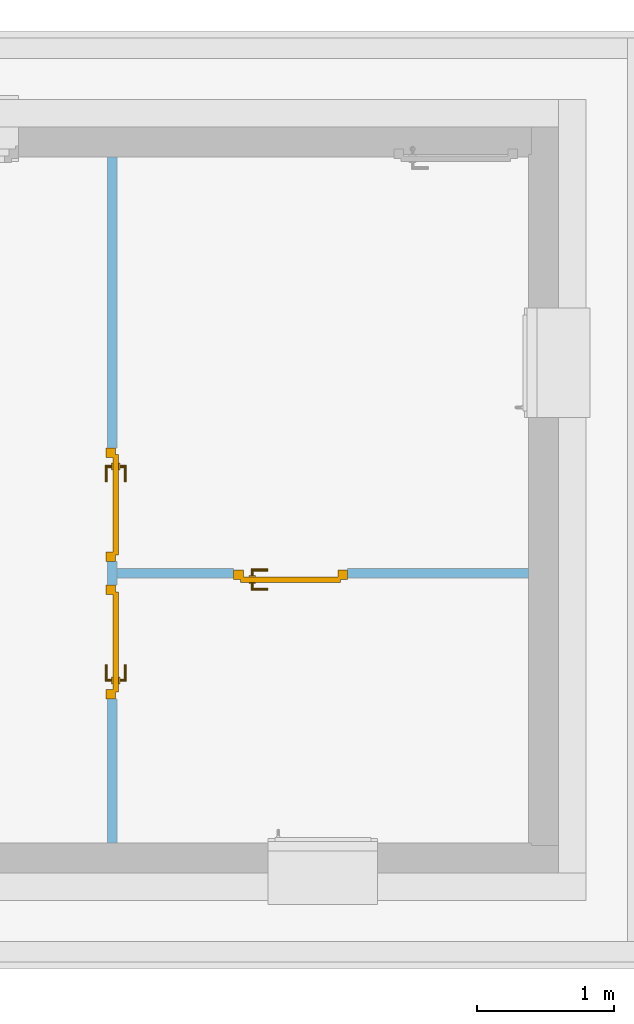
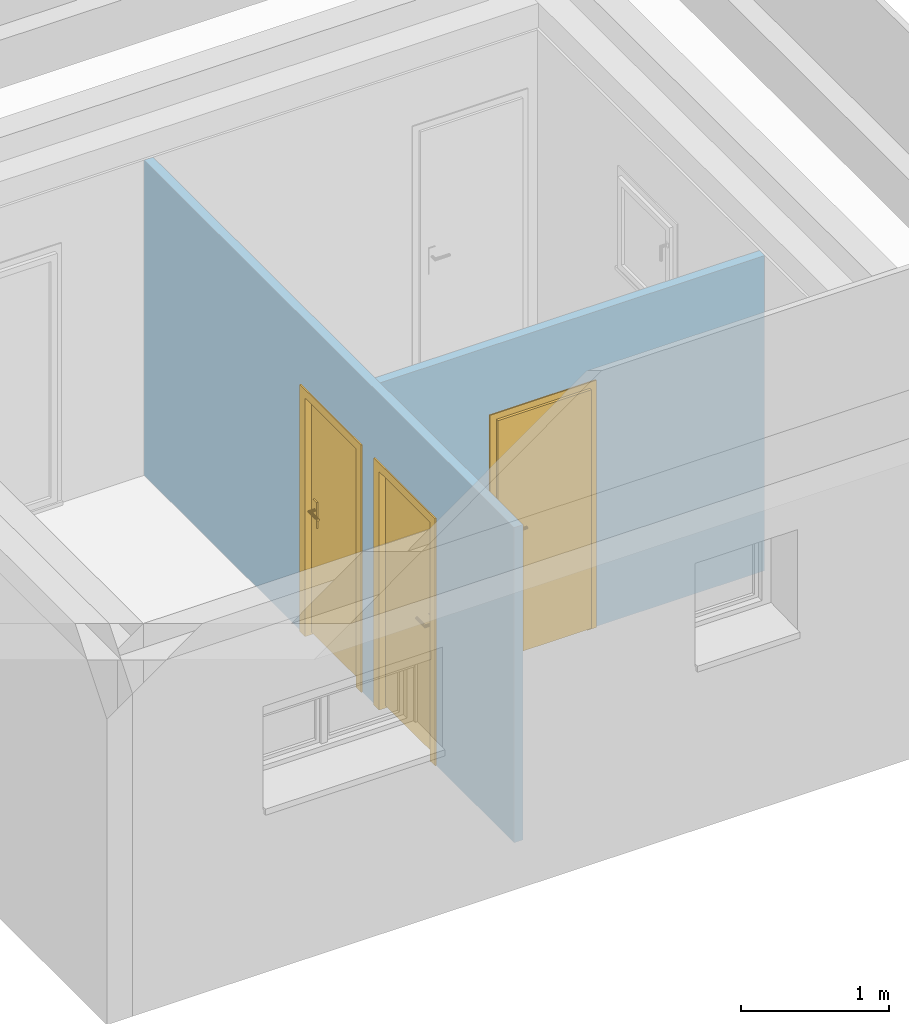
# One storey, part 14 of 16: 3 doors, 3 openings, plus 2 elements that do not belong to this part.
"""IFC4 building model written with IfcOpenShell, lengths in metres."""

from ifc_helpers import new_model, entity, si_unit, converted_unit, frame, frame_2d, origin, origin_with_axes, place, context, subcontext, project, spatial, polyline, rectangle, outline, extrude, faceted_brep, source, transform, mapped, material, layer, layer_set, layer_usage, type_object, element, fill, save


model = new_model("IFC4")

# Units and contexts
model_context = context("Model", 3, precision=1e-05, world=origin())
body_context = subcontext(model_context, "Body", "Model", "MODEL_VIEW")
ifc_project = project(units=[si_unit("LENGTHUNIT", "METRE"), si_unit("AREAUNIT", "SQUARE_METRE"), si_unit("VOLUMEUNIT", "CUBIC_METRE"), si_unit("MASSUNIT", "GRAM", prefix="KILO"), converted_unit("PLANEANGLEUNIT", "DEGREE", entity("IfcPlaneAngleMeasure", 0.0174532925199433), si_unit("PLANEANGLEUNIT", "RADIAN"), dimensions=[0, 0, 0, 0, 0, 0, 0])], contexts=[model_context])

# Building, storey
building_placement = place(None, origin())
building = spatial("IfcBuilding", under=ifc_project, at=building_placement, Name="Projet de Construction", CompositionType="ELEMENT")
storey_placement = place(building_placement, frame((0.0, 0.0, -0.05)))
storey = spatial("IfcBuildingStorey", under=building, at=storey_placement, Name="RDC", CompositionType="ELEMENT", Elevation=-0.05)

# Wall, openings, doors
ifc_material_1 = material()
ifc_layer_1 = layer(ifc_material_1, 0.07)
ifc_layer_set_1 = layer_set([ifc_layer_1])
ifc_layer_usage_1 = layer_usage(ifc_layer_set_1, "AXIS2", "POSITIVE", 0.0)
wall_1_placement = place(storey_placement, frame((6.3740625, 4.21979166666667, 0.05), z_axis=(0.0, 0.0, 1.0), x_axis=(-1.81898940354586e-16, -1.0, 0.0)))
wall_1 = element("IfcWall", 1, at=wall_1_placement, inside=storey, material=ifc_layer_usage_1, context=body_context, shape_type="SweptSolid", body=[
    extrude(rectangle(XDim=5.0, YDim=0.07, at=frame_2d((2.5, 0.035), x_axis=(1.0, 0.0))), origin_with_axes(), (0.0, 0.0, 1.0), 2.6),
])
opening_1_placement = place(wall_1_placement, frame((2.12, -5.23868948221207e-16, 0.0), z_axis=(0.0, 1.0, 0.0), x_axis=(0.0, 0.0, 1.0)))
opening_1 = element("IfcOpeningStandardCase", 2, at=opening_1_placement, cuts=wall_1, Name="Baie de porte", PredefinedType="OPENING", context=body_context, shape_type="SweptSolid", body=[
    extrude(outline(polyline([(0.0, 0.83), (2.04, 0.83), (2.04, 0.0), (0.0, 0.0), (0.0, 0.83)])), origin_with_axes(), (0.0, 0.0, 1.0), 0.0700000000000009),
])
opening_2_placement = place(wall_1_placement, frame((3.12, -3.41970007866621e-16, 0.0), z_axis=(0.0, 1.0, 0.0), x_axis=(0.0, 0.0, 1.0)))
opening_2 = element("IfcOpeningStandardCase", 3, at=opening_2_placement, cuts=wall_1, Name="Baie de porte", PredefinedType="OPENING", context=body_context, shape_type="SweptSolid", body=[
    extrude(outline(polyline([(0.0, 0.83), (2.04, 0.83), (2.04, 0.0), (0.0, 0.0), (0.0, 0.83)])), origin_with_axes(), (0.0, 0.0, 1.0), 0.07),
])
ifc_material_2 = material()
door_type_1 = type_object("IfcDoorType", Name="1 vantail sol fini, en bois", OperationType="SINGLE_SWING_RIGHT", ParameterTakesPrecedence=False, PredefinedType="DOOR")
shared_shape_1 = source(origin_with_axes(), body_context, "Body", "Brep", [
    faceted_brep([(0.0, 0.0699999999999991, 2.04), (0.0, 0.0699999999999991, -4.28626379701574e-18), (0.07, 0.0699999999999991, -4.28626379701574e-18), (0.07, 0.0699999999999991, 2.04), (0.0, -9.09494701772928e-16, 4.28626379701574e-18), (0.0, -9.09494701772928e-16, 2.04), (0.07, -9.09494701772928e-16, 2.04), (0.07, -9.09494701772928e-16, 4.28626379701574e-18)], [[[0, 1, 2, 3]], [[4, 5, 6, 7]], [[1, 0, 5, 4]], [[2, 1, 4, 7]], [[3, 2, 7, 6]], [[0, 3, 6, 5]]], orient=[[False], [False], [False], [False], [False], [False]]),
    faceted_brep([(0.76, 0.0699999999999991, 2.04), (0.76, 0.0699999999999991, -4.28626379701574e-18), (0.83, 0.0699999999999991, -4.28626379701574e-18), (0.83, 0.0699999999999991, 2.04), (0.76, -9.09494701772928e-16, 4.28626379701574e-18), (0.76, -9.09494701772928e-16, 2.04), (0.83, -9.09494701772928e-16, 2.04), (0.83, -9.09494701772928e-16, 4.28626379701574e-18)], [[[0, 1, 2, 3]], [[4, 5, 6, 7]], [[1, 0, 5, 4]], [[2, 1, 4, 7]], [[3, 2, 7, 6]], [[0, 3, 6, 5]]], orient=[[False], [False], [False], [False], [False], [False]]),
    faceted_brep([(0.07, 0.0699999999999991, 2.04), (0.07, 0.0699999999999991, 1.97), (0.76, 0.0699999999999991, 1.97), (0.76, 0.0699999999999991, 2.04), (0.07, -9.09494701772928e-16, 1.97), (0.07, -9.09494701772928e-16, 2.04), (0.76, -9.09494701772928e-16, 2.04), (0.76, -9.09494701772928e-16, 1.97)], [[[0, 1, 2, 3]], [[4, 5, 6, 7]], [[1, 0, 5, 4]], [[2, 1, 4, 7]], [[3, 2, 7, 6]], [[0, 3, 6, 5]]], orient=[[False], [False], [False], [False], [False], [False]]),
    faceted_brep([(0.05, 0.0899999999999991, 1.99), (0.05, 0.0899999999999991, 0.021), (0.78, 0.0899999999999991, 0.021), (0.78, 0.0899999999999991, 1.99), (0.05, 0.0499999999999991, 0.021), (0.05, 0.0499999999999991, 1.99), (0.78, 0.0499999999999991, 1.99), (0.78, 0.0499999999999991, 0.021)], [[[0, 1, 2, 3]], [[4, 5, 6, 7]], [[1, 0, 5, 4]], [[2, 1, 4, 7]], [[3, 2, 7, 6]], [[0, 3, 6, 5]]], orient=[[False], [False], [False], [False], [False], [False]]),
    faceted_brep([(0.11, 0.0499999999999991, 1.146), (0.11, 0.0499999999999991, 0.931), (0.16, 0.0499999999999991, 0.931), (0.16, 0.0499999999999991, 1.146), (0.11, 0.0399999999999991, 0.931), (0.11, 0.0399999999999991, 1.146), (0.16, 0.0399999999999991, 1.146), (0.16, 0.0399999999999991, 0.931)], [[[0, 1, 2, 3]], [[4, 5, 6, 7]], [[1, 0, 5, 4]], [[2, 1, 4, 7]], [[3, 2, 7, 6]], [[0, 3, 6, 5]]], orient=[[False], [False], [False], [False], [False], [False]]),
    faceted_brep([(0.135, 0.0399999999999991, 1.081), (0.13, 0.0399999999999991, 1.07966025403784), (0.126339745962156, 0.0399999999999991, 1.076), (0.125, 0.0399999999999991, 1.071), (0.126339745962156, 0.0399999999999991, 1.066), (0.13, 0.0399999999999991, 1.06233974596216), (0.135, 0.0399999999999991, 1.061), (0.14, 0.0399999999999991, 1.06233974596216), (0.143660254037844, 0.0399999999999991, 1.066), (0.145, 0.0399999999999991, 1.071), (0.143660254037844, 0.0399999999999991, 1.076), (0.14, 0.0399999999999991, 1.07966025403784), (0.135, -9.09494701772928e-16, 1.081), (0.13, -0.00500000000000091, 1.07966025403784), (0.126339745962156, -0.00866025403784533, 1.076), (0.125, -0.0100000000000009, 1.071), (0.126339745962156, -0.00866025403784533, 1.066), (0.13, -0.00500000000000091, 1.06233974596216), (0.135, -9.09494701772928e-16, 1.061), (0.14, 0.00499999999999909, 1.06233974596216), (0.143660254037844, 0.00866025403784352, 1.066), (0.145, 0.00999999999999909, 1.071), (0.143660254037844, 0.00866025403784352, 1.076), (0.14, 0.00499999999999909, 1.07966025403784), (0.25, -9.09494701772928e-16, 1.081), (0.25, 0.00499999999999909, 1.07966025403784), (0.25, 0.00866025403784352, 1.076), (0.25, 0.00999999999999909, 1.071), (0.25, 0.00866025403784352, 1.066), (0.25, 0.00499999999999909, 1.06233974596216), (0.25, -9.09494701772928e-16, 1.061), (0.25, -0.00500000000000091, 1.06233974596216), (0.25, -0.00866025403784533, 1.066), (0.25, -0.0100000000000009, 1.071), (0.25, -0.00866025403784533, 1.076), (0.25, -0.00500000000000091, 1.07966025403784)], [[[0, 1, 2, 3, 4, 5, 6, 7, 8, 9, 10, 11]], [[0, 12, 13, 1]], [[1, 13, 14, 2]], [[2, 14, 15, 3]], [[3, 15, 16, 4]], [[4, 16, 17, 5]], [[5, 17, 18, 6]], [[6, 18, 19, 7]], [[7, 19, 20, 8]], [[8, 20, 21, 9]], [[9, 21, 22, 10]], [[10, 22, 23, 11]], [[11, 23, 12, 0]], [[24, 25, 26, 27, 28, 29, 30, 31, 32, 33, 34, 35]], [[12, 24, 35, 13]], [[13, 35, 34, 14]], [[14, 34, 33, 15]], [[15, 33, 32, 16]], [[16, 32, 31, 17]], [[17, 31, 30, 18]], [[18, 30, 29, 19]], [[19, 29, 28, 20]], [[20, 28, 27, 21]], [[21, 27, 26, 22]], [[22, 26, 25, 23]], [[23, 25, 24, 12]]], orient=[[False], [False], [False], [False], [False], [False], [False], [False], [False], [False], [False], [False], [False], [False], [False], [False], [False], [False], [False], [False], [False], [False], [False], [False], [False], [False]]),
    faceted_brep([(0.11, 0.0899999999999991, 1.146), (0.16, 0.0899999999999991, 1.146), (0.16, 0.0899999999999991, 0.931), (0.11, 0.0899999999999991, 0.931), (0.11, 0.0999999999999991, 0.931), (0.16, 0.0999999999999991, 0.931), (0.16, 0.0999999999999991, 1.146), (0.11, 0.0999999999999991, 1.146)], [[[0, 1, 2, 3]], [[4, 5, 6, 7]], [[3, 4, 7, 0]], [[2, 5, 4, 3]], [[1, 6, 5, 2]], [[0, 7, 6, 1]]], orient=[[False], [False], [False], [False], [False], [False]]),
    faceted_brep([(0.135, 0.0999999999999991, 1.081), (0.14, 0.0999999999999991, 1.07966025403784), (0.143660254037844, 0.0999999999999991, 1.076), (0.145, 0.0999999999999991, 1.071), (0.143660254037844, 0.0999999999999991, 1.066), (0.14, 0.0999999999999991, 1.06233974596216), (0.135, 0.0999999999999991, 1.061), (0.13, 0.0999999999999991, 1.06233974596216), (0.126339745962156, 0.0999999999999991, 1.066), (0.125, 0.0999999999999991, 1.071), (0.126339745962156, 0.0999999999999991, 1.076), (0.13, 0.0999999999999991, 1.07966025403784), (0.13, 0.144999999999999, 1.07966025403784), (0.135, 0.139999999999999, 1.081), (0.126339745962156, 0.148660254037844, 1.076), (0.125, 0.149999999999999, 1.071), (0.126339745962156, 0.148660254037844, 1.066), (0.13, 0.144999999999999, 1.06233974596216), (0.135, 0.139999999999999, 1.061), (0.14, 0.134999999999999, 1.06233974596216), (0.143660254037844, 0.131339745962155, 1.066), (0.145, 0.129999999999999, 1.071), (0.143660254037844, 0.131339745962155, 1.076), (0.14, 0.134999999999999, 1.07966025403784), (0.25, 0.139999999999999, 1.081), (0.25, 0.144999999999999, 1.07966025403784), (0.25, 0.148660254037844, 1.076), (0.25, 0.149999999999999, 1.071), (0.25, 0.148660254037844, 1.066), (0.25, 0.144999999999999, 1.06233974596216), (0.25, 0.139999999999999, 1.061), (0.25, 0.134999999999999, 1.06233974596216), (0.25, 0.131339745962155, 1.066), (0.25, 0.129999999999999, 1.071), (0.25, 0.131339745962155, 1.076), (0.25, 0.134999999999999, 1.07966025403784)], [[[0, 1, 2, 3, 4, 5, 6, 7, 8, 9, 10, 11]], [[0, 11, 12, 13]], [[11, 10, 14, 12]], [[10, 9, 15, 14]], [[9, 8, 16, 15]], [[8, 7, 17, 16]], [[7, 6, 18, 17]], [[6, 5, 19, 18]], [[5, 4, 20, 19]], [[4, 3, 21, 20]], [[3, 2, 22, 21]], [[2, 1, 23, 22]], [[1, 0, 13, 23]], [[24, 25, 26, 27, 28, 29, 30, 31, 32, 33, 34, 35]], [[13, 12, 25, 24]], [[12, 14, 26, 25]], [[14, 15, 27, 26]], [[15, 16, 28, 27]], [[16, 17, 29, 28]], [[17, 18, 30, 29]], [[18, 19, 31, 30]], [[19, 20, 32, 31]], [[20, 21, 33, 32]], [[21, 22, 34, 33]], [[22, 23, 35, 34]], [[23, 13, 24, 35]]], orient=[[False], [False], [False], [False], [False], [False], [False], [False], [False], [False], [False], [False], [False], [False], [False], [False], [False], [False], [False], [False], [False], [False], [False], [False], [False], [False]]),
])
door_1_placement = place(opening_1_placement, frame((0.0, 0.0, -0.00999999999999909), z_axis=(1.0, 0.0, 0.0), x_axis=(0.0, 1.0, 1.81898940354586e-16)))
door_1 = element("IfcDoor", 4, at=door_1_placement, inside=storey, type_object=door_type_1, material=ifc_material_2, Name="1 vantail sol fini, en bois", OverallHeight=2.04, OverallWidth=0.83, context=body_context, shape_type="MappedRepresentation", body=[
    mapped(shared_shape_1, transform((0.0, 0.0, 0.0), x_axis=(1.0, 0.0, 0.0), y_axis=(0.0, 1.0, 0.0), z_axis=(0.0, 0.0, 1.0), scale=1.0)),
])
fill(opening_1, door_1)
ifc_material_3 = material()
door_type_2 = type_object("IfcDoorType", Name="1 vantail sol fini, en bois", OperationType="SINGLE_SWING_RIGHT", ParameterTakesPrecedence=False, PredefinedType="DOOR")
shared_shape_2 = source(origin_with_axes(), body_context, "Body", "Brep", [
    faceted_brep([(0.83, 0.07, 2.04), (0.76, 0.07, 2.04), (0.76, 0.07, -4.28626379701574e-18), (0.83, 0.07, -4.28626379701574e-18), (0.83, 0.0, 4.28626379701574e-18), (0.76, 0.0, 4.28626379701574e-18), (0.76, 0.0, 2.04), (0.83, 0.0, 2.04)], [[[0, 1, 2, 3]], [[4, 5, 6, 7]], [[3, 4, 7, 0]], [[2, 5, 4, 3]], [[1, 6, 5, 2]], [[0, 7, 6, 1]]], orient=[[False], [False], [False], [False], [False], [False]]),
    faceted_brep([(0.07, 0.07, 2.04), (0.0, 0.07, 2.04), (0.0, 0.07, -4.28626379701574e-18), (0.07, 0.07, -4.28626379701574e-18), (0.07, 0.0, 4.28626379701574e-18), (0.0, 0.0, 4.28626379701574e-18), (0.0, 0.0, 2.04), (0.07, 0.0, 2.04)], [[[0, 1, 2, 3]], [[4, 5, 6, 7]], [[3, 4, 7, 0]], [[2, 5, 4, 3]], [[1, 6, 5, 2]], [[0, 7, 6, 1]]], orient=[[False], [False], [False], [False], [False], [False]]),
    faceted_brep([(0.76, 0.07, 2.04), (0.07, 0.07, 2.04), (0.07, 0.07, 1.97), (0.76, 0.07, 1.97), (0.76, 0.0, 1.97), (0.07, 0.0, 1.97), (0.07, 0.0, 2.04), (0.76, 0.0, 2.04)], [[[0, 1, 2, 3]], [[4, 5, 6, 7]], [[3, 4, 7, 0]], [[2, 5, 4, 3]], [[1, 6, 5, 2]], [[0, 7, 6, 1]]], orient=[[False], [False], [False], [False], [False], [False]]),
    faceted_brep([(0.78, 0.09, 1.99), (0.05, 0.09, 1.99), (0.05, 0.09, 0.021), (0.78, 0.09, 0.021), (0.78, 0.05, 0.021), (0.05, 0.05, 0.021), (0.05, 0.05, 1.99), (0.78, 0.05, 1.99)], [[[0, 1, 2, 3]], [[4, 5, 6, 7]], [[3, 4, 7, 0]], [[2, 5, 4, 3]], [[1, 6, 5, 2]], [[0, 7, 6, 1]]], orient=[[False], [False], [False], [False], [False], [False]]),
    faceted_brep([(0.72, 0.05, 1.146), (0.67, 0.05, 1.146), (0.67, 0.05, 0.931), (0.72, 0.05, 0.931), (0.72, 0.04, 0.931), (0.67, 0.04, 0.931), (0.67, 0.04, 1.146), (0.72, 0.04, 1.146)], [[[0, 1, 2, 3]], [[4, 5, 6, 7]], [[3, 4, 7, 0]], [[2, 5, 4, 3]], [[1, 6, 5, 2]], [[0, 7, 6, 1]]], orient=[[False], [False], [False], [False], [False], [False]]),
    faceted_brep([(0.695, 0.04, 1.081), (0.69, 0.04, 1.07966025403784), (0.686339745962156, 0.04, 1.076), (0.685, 0.04, 1.071), (0.686339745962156, 0.04, 1.066), (0.69, 0.04, 1.06233974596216), (0.695, 0.04, 1.061), (0.7, 0.04, 1.06233974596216), (0.703660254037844, 0.04, 1.066), (0.705, 0.04, 1.071), (0.703660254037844, 0.04, 1.076), (0.7, 0.04, 1.07966025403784), (0.7, -0.005, 1.07966025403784), (0.695, 0.0, 1.081), (0.703660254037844, -0.00866025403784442, 1.076), (0.705, -0.01, 1.071), (0.703660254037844, -0.00866025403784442, 1.066), (0.7, -0.005, 1.06233974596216), (0.695, 0.0, 1.061), (0.69, 0.005, 1.06233974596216), (0.686339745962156, 0.00866025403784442, 1.066), (0.685, 0.01, 1.071), (0.686339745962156, 0.00866025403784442, 1.076), (0.69, 0.005, 1.07966025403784), (0.58, 0.0, 1.081), (0.58, -0.005, 1.07966025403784), (0.58, -0.00866025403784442, 1.076), (0.58, -0.01, 1.071), (0.58, -0.00866025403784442, 1.066), (0.58, -0.005, 1.06233974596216), (0.58, 0.0, 1.061), (0.58, 0.005, 1.06233974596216), (0.58, 0.00866025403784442, 1.066), (0.58, 0.01, 1.071), (0.58, 0.00866025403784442, 1.076), (0.58, 0.005, 1.07966025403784)], [[[0, 1, 2, 3, 4, 5, 6, 7, 8, 9, 10, 11]], [[0, 11, 12, 13]], [[11, 10, 14, 12]], [[10, 9, 15, 14]], [[9, 8, 16, 15]], [[8, 7, 17, 16]], [[7, 6, 18, 17]], [[6, 5, 19, 18]], [[5, 4, 20, 19]], [[4, 3, 21, 20]], [[3, 2, 22, 21]], [[2, 1, 23, 22]], [[1, 0, 13, 23]], [[24, 25, 26, 27, 28, 29, 30, 31, 32, 33, 34, 35]], [[13, 12, 25, 24]], [[12, 14, 26, 25]], [[14, 15, 27, 26]], [[15, 16, 28, 27]], [[16, 17, 29, 28]], [[17, 18, 30, 29]], [[18, 19, 31, 30]], [[19, 20, 32, 31]], [[20, 21, 33, 32]], [[21, 22, 34, 33]], [[22, 23, 35, 34]], [[23, 13, 24, 35]]], orient=[[False], [False], [False], [False], [False], [False], [False], [False], [False], [False], [False], [False], [False], [False], [False], [False], [False], [False], [False], [False], [False], [False], [False], [False], [False], [False]]),
    faceted_brep([(0.72, 0.09, 1.146), (0.72, 0.09, 0.931), (0.67, 0.09, 0.931), (0.67, 0.09, 1.146), (0.72, 0.1, 0.931), (0.72, 0.1, 1.146), (0.67, 0.1, 1.146), (0.67, 0.1, 0.931)], [[[0, 1, 2, 3]], [[4, 5, 6, 7]], [[1, 0, 5, 4]], [[2, 1, 4, 7]], [[3, 2, 7, 6]], [[0, 3, 6, 5]]], orient=[[False], [False], [False], [False], [False], [False]]),
    faceted_brep([(0.695, 0.1, 1.081), (0.7, 0.1, 1.07966025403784), (0.703660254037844, 0.1, 1.076), (0.705, 0.1, 1.071), (0.703660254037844, 0.1, 1.066), (0.7, 0.1, 1.06233974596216), (0.695, 0.1, 1.061), (0.69, 0.1, 1.06233974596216), (0.686339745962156, 0.1, 1.066), (0.685, 0.1, 1.071), (0.686339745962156, 0.1, 1.076), (0.69, 0.1, 1.07966025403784), (0.695, 0.14, 1.081), (0.7, 0.145, 1.07966025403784), (0.703660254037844, 0.148660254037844, 1.076), (0.705, 0.15, 1.071), (0.703660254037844, 0.148660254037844, 1.066), (0.7, 0.145, 1.06233974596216), (0.695, 0.14, 1.061), (0.69, 0.135, 1.06233974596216), (0.686339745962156, 0.131339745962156, 1.066), (0.685, 0.13, 1.071), (0.686339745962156, 0.131339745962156, 1.076), (0.69, 0.135, 1.07966025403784), (0.58, 0.14, 1.081), (0.58, 0.135, 1.07966025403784), (0.58, 0.131339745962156, 1.076), (0.58, 0.13, 1.071), (0.58, 0.131339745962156, 1.066), (0.58, 0.135, 1.06233974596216), (0.58, 0.14, 1.061), (0.58, 0.145, 1.06233974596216), (0.58, 0.148660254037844, 1.066), (0.58, 0.15, 1.071), (0.58, 0.148660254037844, 1.076), (0.58, 0.145, 1.07966025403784)], [[[0, 1, 2, 3, 4, 5, 6, 7, 8, 9, 10, 11]], [[0, 12, 13, 1]], [[1, 13, 14, 2]], [[2, 14, 15, 3]], [[3, 15, 16, 4]], [[4, 16, 17, 5]], [[5, 17, 18, 6]], [[6, 18, 19, 7]], [[7, 19, 20, 8]], [[8, 20, 21, 9]], [[9, 21, 22, 10]], [[10, 22, 23, 11]], [[11, 23, 12, 0]], [[24, 25, 26, 27, 28, 29, 30, 31, 32, 33, 34, 35]], [[12, 24, 35, 13]], [[13, 35, 34, 14]], [[14, 34, 33, 15]], [[15, 33, 32, 16]], [[16, 32, 31, 17]], [[17, 31, 30, 18]], [[18, 30, 29, 19]], [[19, 29, 28, 20]], [[20, 28, 27, 21]], [[21, 27, 26, 22]], [[22, 26, 25, 23]], [[23, 25, 24, 12]]], orient=[[False], [False], [False], [False], [False], [False], [False], [False], [False], [False], [False], [False], [False], [False], [False], [False], [False], [False], [False], [False], [False], [False], [False], [False], [False], [False]]),
])
door_2_placement = place(opening_2_placement, frame((0.0, 2.27373675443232e-16, -0.01), z_axis=(1.0, 0.0, 0.0), x_axis=(0.0, 1.0, 1.81898940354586e-16)))
door_2 = element("IfcDoor", 5, at=door_2_placement, inside=storey, type_object=door_type_2, material=ifc_material_3, Name="1 vantail sol fini, en bois", OverallHeight=2.04, OverallWidth=0.83, context=body_context, shape_type="MappedRepresentation", body=[
    mapped(shared_shape_2, transform((0.0, 0.0, 0.0), x_axis=(1.0, 0.0, 0.0), y_axis=(0.0, 1.0, 0.0), z_axis=(0.0, 0.0, 1.0), scale=1.0)),
])
fill(opening_2, door_2)

# Wall, opening, door
ifc_material_4 = material()
ifc_layer_2 = layer(ifc_material_4, 0.07)
ifc_layer_set_2 = layer_set([ifc_layer_2])
ifc_layer_usage_2 = layer_usage(ifc_layer_set_2, "AXIS2", "POSITIVE", 0.0)
wall_2_placement = place(storey_placement, frame((9.4440625, 1.21979166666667, 0.05), z_axis=(0.0, 0.0, 1.0), x_axis=(-1.0, 0.0, 0.0)))
wall_2 = element("IfcWall", 6, at=wall_2_placement, inside=storey, material=ifc_layer_usage_2, context=body_context, shape_type="SweptSolid", body=[
    extrude(rectangle(XDim=3.0, YDim=0.07, at=frame_2d((1.5, 0.035), x_axis=(1.0, 0.0))), origin_with_axes(), (0.0, 0.0, 1.0), 2.6),
])
opening_3_placement = place(wall_2_placement, frame((2.15, 0.07, 0.0), z_axis=(0.0, -1.0, 0.0), x_axis=(0.0, 0.0, 1.0)))
opening_3 = element("IfcOpeningStandardCase", 7, at=opening_3_placement, cuts=wall_2, Name="Baie de porte", PredefinedType="OPENING", context=body_context, shape_type="SweptSolid", body=[
    extrude(outline(polyline([(0.0, 0.83), (2.04, 0.83), (2.04, 0.0), (0.0, 0.0), (0.0, 0.83)])), origin_with_axes(), (0.0, 0.0, 1.0), 0.07),
])
ifc_material_5 = material()
door_type_3 = type_object("IfcDoorType", Name="1 vantail sol fini, en bois", OperationType="SINGLE_SWING_RIGHT", ParameterTakesPrecedence=False, PredefinedType="DOOR")
shared_shape_3 = source(origin_with_axes(), body_context, "Body", "Brep", [
    faceted_brep([(0.83, 0.0700000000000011, 2.04), (0.76, 0.0700000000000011, 2.04), (0.76, 0.0700000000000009, -4.28626379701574e-18), (0.83, 0.0700000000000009, -4.28626379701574e-18), (0.83, 9.09494701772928e-16, 4.28626379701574e-18), (0.76, 9.09494701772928e-16, 4.28626379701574e-18), (0.76, 1.13686837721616e-15, 2.04), (0.83, 1.13686837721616e-15, 2.04)], [[[0, 1, 2, 3]], [[4, 5, 6, 7]], [[3, 4, 7, 0]], [[2, 5, 4, 3]], [[1, 6, 5, 2]], [[0, 7, 6, 1]]], orient=[[False], [False], [False], [False], [False], [False]]),
    faceted_brep([(0.07, 0.0700000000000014, 2.04), (0.0, 0.0700000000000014, 2.04), (0.0, 0.0700000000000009, -4.28626379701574e-18), (0.07, 0.0700000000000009, -4.28626379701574e-18), (0.07, 9.09494701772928e-16, 4.28626379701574e-18), (0.0, 9.09494701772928e-16, 4.28626379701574e-18), (0.0, 1.36424205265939e-15, 2.04), (0.07, 1.36424205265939e-15, 2.04)], [[[0, 1, 2, 3]], [[4, 5, 6, 7]], [[3, 4, 7, 0]], [[2, 5, 4, 3]], [[1, 6, 5, 2]], [[0, 7, 6, 1]]], orient=[[False], [False], [False], [False], [False], [False]]),
    faceted_brep([(0.76, 0.0700000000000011, 2.04), (0.07, 0.0700000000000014, 2.04), (0.07, 0.0700000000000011, 1.97), (0.76, 0.0700000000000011, 1.97), (0.76, 1.13686837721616e-15, 1.97), (0.07, 1.13686837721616e-15, 1.97), (0.07, 1.36424205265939e-15, 2.04), (0.76, 1.13686837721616e-15, 2.04)], [[[0, 1, 2, 3]], [[4, 5, 6, 7]], [[3, 4, 7, 0]], [[2, 5, 4, 3]], [[1, 6, 5, 2]], [[0, 7, 6, 1]]], orient=[[False], [False], [False], [False], [False], [False]]),
    faceted_brep([(0.78, 0.0900000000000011, 1.99), (0.05, 0.0900000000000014, 1.99), (0.05, 0.0900000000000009, 0.021), (0.78, 0.0900000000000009, 0.021), (0.78, 0.0500000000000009, 0.021), (0.05, 0.0500000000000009, 0.021), (0.05, 0.0500000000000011, 1.99), (0.78, 0.0500000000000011, 1.99)], [[[0, 1, 2, 3]], [[4, 5, 6, 7]], [[3, 4, 7, 0]], [[2, 5, 4, 3]], [[1, 6, 5, 2]], [[0, 7, 6, 1]]], orient=[[False], [False], [False], [False], [False], [False]]),
    faceted_brep([(0.72, 0.0500000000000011, 1.146), (0.67, 0.0500000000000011, 1.146), (0.67, 0.0500000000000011, 0.931), (0.72, 0.0500000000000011, 0.931), (0.72, 0.0400000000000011, 0.931), (0.67, 0.0400000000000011, 0.931), (0.67, 0.0400000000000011, 1.146), (0.72, 0.0400000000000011, 1.146)], [[[0, 1, 2, 3]], [[4, 5, 6, 7]], [[3, 4, 7, 0]], [[2, 5, 4, 3]], [[1, 6, 5, 2]], [[0, 7, 6, 1]]], orient=[[False], [False], [False], [False], [False], [False]]),
    faceted_brep([(0.695, 0.0400000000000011, 1.081), (0.69, 0.0400000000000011, 1.07966025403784), (0.686339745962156, 0.0400000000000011, 1.076), (0.685, 0.0400000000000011, 1.071), (0.686339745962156, 0.0400000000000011, 1.066), (0.69, 0.0400000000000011, 1.06233974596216), (0.695, 0.0400000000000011, 1.061), (0.7, 0.0400000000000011, 1.06233974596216), (0.703660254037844, 0.0400000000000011, 1.066), (0.705, 0.0400000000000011, 1.071), (0.703660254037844, 0.0400000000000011, 1.076), (0.7, 0.0400000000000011, 1.07966025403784), (0.7, -0.00499999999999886, 1.07966025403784), (0.695, 1.13686837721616e-15, 1.081), (0.703660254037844, -0.00866025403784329, 1.076), (0.705, -0.00999999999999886, 1.071), (0.703660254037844, -0.00866025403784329, 1.066), (0.7, -0.00499999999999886, 1.06233974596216), (0.695, 1.13686837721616e-15, 1.061), (0.69, 0.00500000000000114, 1.06233974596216), (0.686339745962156, 0.00866025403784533, 1.066), (0.685, 0.0100000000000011, 1.071), (0.686339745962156, 0.00866025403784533, 1.076), (0.69, 0.00500000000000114, 1.07966025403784), (0.58, 1.13686837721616e-15, 1.081), (0.58, -0.00499999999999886, 1.07966025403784), (0.58, -0.00866025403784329, 1.076), (0.58, -0.00999999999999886, 1.071), (0.58, -0.00866025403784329, 1.066), (0.58, -0.00499999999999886, 1.06233974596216), (0.58, 1.13686837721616e-15, 1.061), (0.58, 0.00500000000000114, 1.06233974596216), (0.58, 0.00866025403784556, 1.066), (0.58, 0.0100000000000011, 1.071), (0.58, 0.00866025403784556, 1.076), (0.58, 0.00500000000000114, 1.07966025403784)], [[[0, 1, 2, 3, 4, 5, 6, 7, 8, 9, 10, 11]], [[0, 11, 12, 13]], [[11, 10, 14, 12]], [[10, 9, 15, 14]], [[9, 8, 16, 15]], [[8, 7, 17, 16]], [[7, 6, 18, 17]], [[6, 5, 19, 18]], [[5, 4, 20, 19]], [[4, 3, 21, 20]], [[3, 2, 22, 21]], [[2, 1, 23, 22]], [[1, 0, 13, 23]], [[24, 25, 26, 27, 28, 29, 30, 31, 32, 33, 34, 35]], [[13, 12, 25, 24]], [[12, 14, 26, 25]], [[14, 15, 27, 26]], [[15, 16, 28, 27]], [[16, 17, 29, 28]], [[17, 18, 30, 29]], [[18, 19, 31, 30]], [[19, 20, 32, 31]], [[20, 21, 33, 32]], [[21, 22, 34, 33]], [[22, 23, 35, 34]], [[23, 13, 24, 35]]], orient=[[False], [False], [False], [False], [False], [False], [False], [False], [False], [False], [False], [False], [False], [False], [False], [False], [False], [False], [False], [False], [False], [False], [False], [False], [False], [False]]),
    faceted_brep([(0.72, 0.0900000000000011, 1.146), (0.72, 0.0900000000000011, 0.931), (0.67, 0.0900000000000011, 0.931), (0.67, 0.0900000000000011, 1.146), (0.72, 0.100000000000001, 0.931), (0.72, 0.100000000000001, 1.146), (0.67, 0.100000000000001, 1.146), (0.67, 0.100000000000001, 0.931)], [[[0, 1, 2, 3]], [[4, 5, 6, 7]], [[1, 0, 5, 4]], [[2, 1, 4, 7]], [[3, 2, 7, 6]], [[0, 3, 6, 5]]], orient=[[False], [False], [False], [False], [False], [False]]),
    faceted_brep([(0.695, 0.100000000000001, 1.081), (0.7, 0.100000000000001, 1.07966025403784), (0.703660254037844, 0.100000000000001, 1.076), (0.705, 0.100000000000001, 1.071), (0.703660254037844, 0.100000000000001, 1.066), (0.7, 0.100000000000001, 1.06233974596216), (0.695, 0.100000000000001, 1.061), (0.69, 0.100000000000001, 1.06233974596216), (0.686339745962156, 0.100000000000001, 1.066), (0.685, 0.100000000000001, 1.071), (0.686339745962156, 0.100000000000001, 1.076), (0.69, 0.100000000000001, 1.07966025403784), (0.695, 0.140000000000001, 1.081), (0.7, 0.145000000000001, 1.07966025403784), (0.703660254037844, 0.148660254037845, 1.076), (0.705, 0.150000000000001, 1.071), (0.703660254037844, 0.148660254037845, 1.066), (0.7, 0.145000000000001, 1.06233974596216), (0.695, 0.140000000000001, 1.061), (0.69, 0.135000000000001, 1.06233974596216), (0.686339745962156, 0.131339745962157, 1.066), (0.685, 0.130000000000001, 1.071), (0.686339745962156, 0.131339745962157, 1.076), (0.69, 0.135000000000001, 1.07966025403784), (0.58, 0.140000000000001, 1.081), (0.58, 0.135000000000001, 1.07966025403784), (0.58, 0.131339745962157, 1.076), (0.58, 0.130000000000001, 1.071), (0.58, 0.131339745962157, 1.066), (0.58, 0.135000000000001, 1.06233974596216), (0.58, 0.140000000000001, 1.061), (0.58, 0.145000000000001, 1.06233974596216), (0.58, 0.148660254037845, 1.066), (0.58, 0.150000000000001, 1.071), (0.58, 0.148660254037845, 1.076), (0.58, 0.145000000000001, 1.07966025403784)], [[[0, 1, 2, 3, 4, 5, 6, 7, 8, 9, 10, 11]], [[0, 12, 13, 1]], [[1, 13, 14, 2]], [[2, 14, 15, 3]], [[3, 15, 16, 4]], [[4, 16, 17, 5]], [[5, 17, 18, 6]], [[6, 18, 19, 7]], [[7, 19, 20, 8]], [[8, 20, 21, 9]], [[9, 21, 22, 10]], [[10, 22, 23, 11]], [[11, 23, 12, 0]], [[24, 25, 26, 27, 28, 29, 30, 31, 32, 33, 34, 35]], [[12, 24, 35, 13]], [[13, 35, 34, 14]], [[14, 34, 33, 15]], [[15, 33, 32, 16]], [[16, 32, 31, 17]], [[17, 31, 30, 18]], [[18, 30, 29, 19]], [[19, 29, 28, 20]], [[20, 28, 27, 21]], [[21, 27, 26, 22]], [[22, 26, 25, 23]], [[23, 25, 24, 12]]], orient=[[False], [False], [False], [False], [False], [False], [False], [False], [False], [False], [False], [False], [False], [False], [False], [False], [False], [False], [False], [False], [False], [False], [False], [False], [False], [False]]),
])
door_3_placement = place(opening_3_placement, frame((0.0, 0.83, 0.06), z_axis=(1.0, 0.0, 0.0), x_axis=(0.0, -1.0, 0.0)))
door_3 = element("IfcDoor", 8, at=door_3_placement, inside=storey, type_object=door_type_3, material=ifc_material_5, Name="1 vantail sol fini, en bois", OverallHeight=2.04, OverallWidth=0.83, context=body_context, shape_type="MappedRepresentation", body=[
    mapped(shared_shape_3, transform((0.0, 0.0, 0.0), x_axis=(1.0, 0.0, 0.0), y_axis=(0.0, 1.0, 0.0), z_axis=(0.0, 0.0, 1.0), scale=1.0)),
])
fill(opening_3, door_3)

save(model, "model.ifc")
